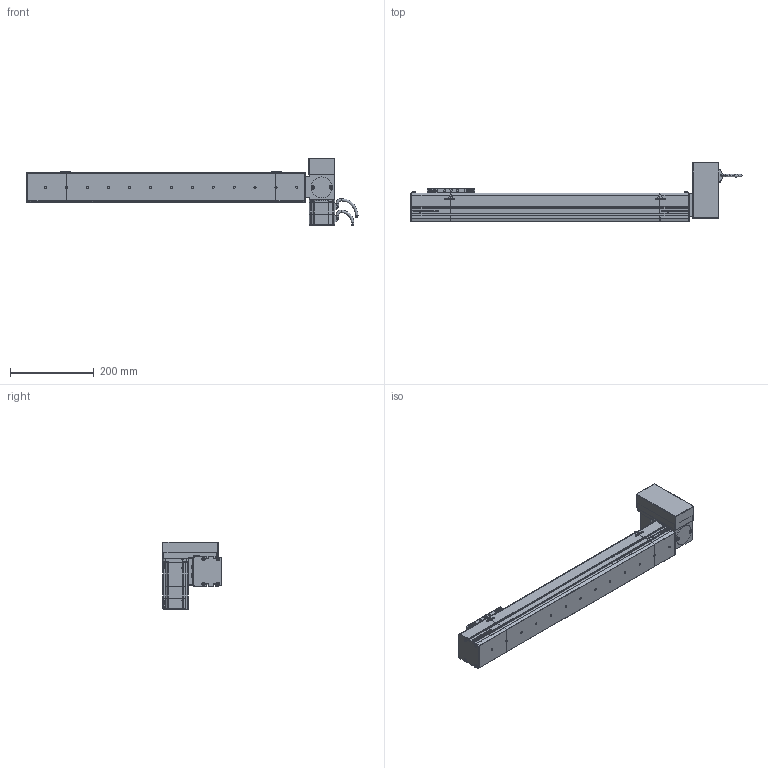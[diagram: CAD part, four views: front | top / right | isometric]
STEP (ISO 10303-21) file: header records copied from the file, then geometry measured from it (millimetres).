
FILE_DESCRIPTION (( 'STEP AP214' ), '1' );
FILE_NAME ('S07 CBN LT S500.STEP', '2010-06-29T09:42:18', ( 'Conseil Régional Haute-Normandie' ), ( 'Conseil Régional Haute-Normandie' ), 'SwSTEP 2.0', 'SolidWorks 2010', '' );
FILE_SCHEMA (( 'AUTOMOTIVE_DESIGN' ));
Length unit declared in the file: millimetre
Products named in the file (31): VisM3_Default; Conecteur2 60BLDC_Default; Conecteur 60BLDC_Default; Axe 60BLDC_Default; P4_Default; P2 90A_Default; P1_Default; 60BLDC90A-640_Default; P3 90A_Default; vis M5 L8_Default; support chariot_Default; chariot_Default; vis M5 L15_Default; plaque de serrage Tail_Default; Chariot S07_Default; Plaque de bout Tail_Default; Couvercle Tail_Default; Corp Tail_Default; Couvercle S07 S500_Default; Corp S07 S500_Default; Tail S07 Tail_Default; Plaque de bout LT_Default; Head LT_Default; S07 CBN LT S500; Cache Support Moteur LT_Default; Couvercle LT_Default; Corp LT_Default; Support Moteur LT_Default; plaque de serrage LT_Default; Rondelle de Serrage LT_Default
Assembly tree (71 placements, depth 4):
  S07 CBN LT S500
    Chariot S07_Default
      vis M5 L8_Default  x8
      support chariot_Default
      chariot_Default
    Head LT_Default
      vis M5 L15_Default  x16
      Rondelle de Serrage LT_Default  x3
      plaque de serrage LT_Default
      Cache Support Moteur LT_Default
      Couvercle LT_Default
      Corp LT_Default
      60BLDC90A-640_Default
        VisM3_Default  x12
        P3 90A_Default
        P2 90A_Default
        Conecteur2 60BLDC_Default
        Axe 60BLDC_Default
        P4_Default
        P1_Default
        Conecteur 60BLDC_Default
      Support Moteur LT_Default
      Plaque de bout LT_Default
    Corp S07 S500_Default
      Couvercle S07 S500_Default
      Corp S07 S500_Default
    Tail S07 Tail_Default
      vis M5 L15_Default  x6
      Plaque de bout Tail_Default
      plaque de serrage Tail_Default
      Corp Tail_Default
      Couvercle Tail_Default
Bounding box: 793.2 x 141 x 162 mm (x, y, z)
Volume: 3799441.3 mm3; surface area: 549994.8 mm2
Topology: 108 solids, 108 shells, 3880 faces, 9566 edges, 6156 vertices
Faces by surface type: plane 2246, bspline 756, cylinder 667, torus 112, cone 95, sphere 4
Entity records: 153033 total; most frequent: CARTESIAN_POINT 79539, ORIENTED_EDGE 14652, DIRECTION 10899, EDGE_CURVE 7326, VERTEX_POINT 4841, VECTOR 4765, LINE 4765, EDGE_LOOP 3133
